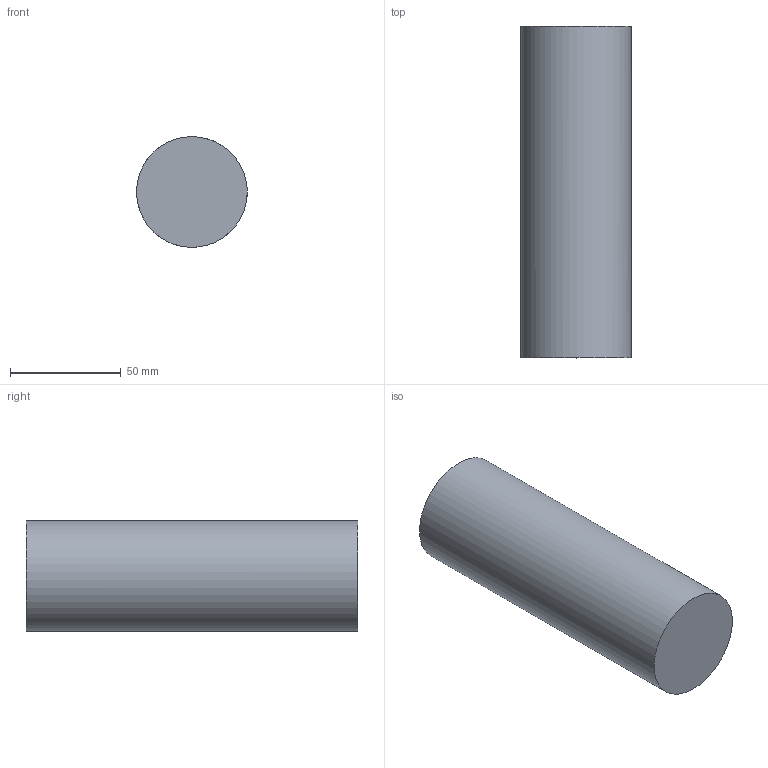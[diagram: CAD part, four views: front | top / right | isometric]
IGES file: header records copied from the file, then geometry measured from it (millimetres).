
Global section: file name: C:\mihara\offset_Test_Data\cylinder_Ideas.igs; preprocessor: I-DEAS 3D IGES Translator 11; date: 20050408.140222; units: millimetre
Bounding box: 49.94 x 150 x 50 mm (x, y, z)
Volume: 292107.5 mm3; surface area: 27521.8 mm2
Topology: 1 solids, 1 shells, 3 faces, 3 edges, 2 vertices
Faces by surface type: bspline 3
